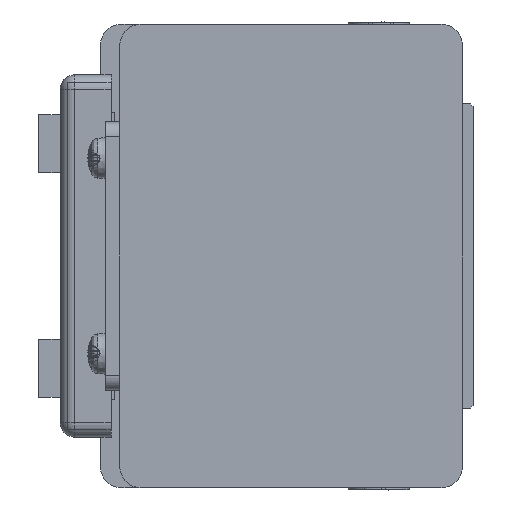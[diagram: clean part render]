
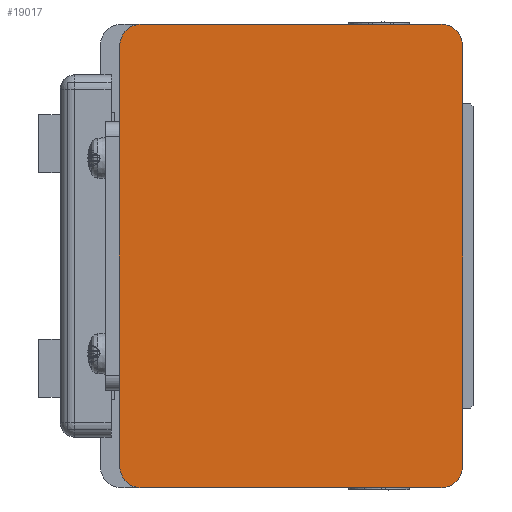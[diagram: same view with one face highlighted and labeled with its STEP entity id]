
A CAD part, left-side view. The second image highlights one B-rep face of the part: STEP entity #19017.
In plain terms, the highlighted planar face has unit normal (-1, 0, 0) as drawn and (0, 0, -1) by its records, which use the part's own axes.
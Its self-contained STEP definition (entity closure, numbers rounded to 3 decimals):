
#779=LINE('',#26883,#2431);
#794=LINE('',#26925,#2446);
#839=LINE('',#27034,#2491);
#861=LINE('',#27103,#2513);
#874=LINE('',#27138,#2526);
#875=LINE('',#27141,#2527);
#876=LINE('',#27142,#2528);
#877=LINE('',#27147,#2529);
#2431=VECTOR('',#21973,19.);
#2446=VECTOR('',#22006,41.3);
#2491=VECTOR('',#22095,41.3);
#2513=VECTOR('',#22155,19.);
#2526=VECTOR('',#22190,0.1);
#2527=VECTOR('',#22193,20.);
#2528=VECTOR('',#22194,0.1);
#2529=VECTOR('',#22199,58.);
#4238=PLANE('',#20263);
#5066=FACE_OUTER_BOUND('',#6188,.T.);
#6188=EDGE_LOOP('',(#12794,#12795,#12796,#12797,#12798,#12799,#12800,#12801,
#12802,#12803,#12804,#12805));
#7442=CIRCLE('',#20264,3.);
#7443=CIRCLE('',#20265,3.);
#7444=CIRCLE('',#20266,3.);
#7445=CIRCLE('',#20267,3.);
#7999=VERTEX_POINT('',#26880);
#8000=VERTEX_POINT('',#26882);
#8017=VERTEX_POINT('',#26922);
#8018=VERTEX_POINT('',#26924);
#8059=VERTEX_POINT('',#27031);
#8060=VERTEX_POINT('',#27033);
#8087=VERTEX_POINT('',#27100);
#8088=VERTEX_POINT('',#27102);
#8099=VERTEX_POINT('',#27136);
#8100=VERTEX_POINT('',#27140);
#8101=VERTEX_POINT('',#27144);
#8102=VERTEX_POINT('',#27146);
#9860=EDGE_CURVE('',#8000,#7999,#779,.T.);
#9881=EDGE_CURVE('',#8018,#8017,#794,.T.);
#9936=EDGE_CURVE('',#8060,#8059,#839,.T.);
#9970=EDGE_CURVE('',#8088,#8087,#861,.T.);
#9989=EDGE_CURVE('',#8099,#7999,#874,.T.);
#9990=EDGE_CURVE('',#8100,#8099,#875,.T.);
#9991=EDGE_CURVE('',#8088,#8100,#876,.T.);
#9992=EDGE_CURVE('',#8087,#8060,#7442,.T.);
#9993=EDGE_CURVE('',#8059,#8101,#7443,.T.);
#9994=EDGE_CURVE('',#8101,#8102,#877,.T.);
#9995=EDGE_CURVE('',#8102,#8018,#7444,.T.);
#9996=EDGE_CURVE('',#8017,#8000,#7445,.T.);
#12794=ORIENTED_EDGE('',*,*,#9860,.T.);
#12795=ORIENTED_EDGE('',*,*,#9989,.F.);
#12796=ORIENTED_EDGE('',*,*,#9990,.F.);
#12797=ORIENTED_EDGE('',*,*,#9991,.F.);
#12798=ORIENTED_EDGE('',*,*,#9970,.T.);
#12799=ORIENTED_EDGE('',*,*,#9992,.T.);
#12800=ORIENTED_EDGE('',*,*,#9936,.T.);
#12801=ORIENTED_EDGE('',*,*,#9993,.T.);
#12802=ORIENTED_EDGE('',*,*,#9994,.T.);
#12803=ORIENTED_EDGE('',*,*,#9995,.T.);
#12804=ORIENTED_EDGE('',*,*,#9881,.T.);
#12805=ORIENTED_EDGE('',*,*,#9996,.T.);
#19017=ADVANCED_FACE('',(#5066),#4238,.F.);
#20263=AXIS2_PLACEMENT_3D('',#27139,#22191,#22192);
#20264=AXIS2_PLACEMENT_3D('',#27143,#22195,#22196);
#20265=AXIS2_PLACEMENT_3D('',#27145,#22197,#22198);
#20266=AXIS2_PLACEMENT_3D('',#27148,#22200,#22201);
#20267=AXIS2_PLACEMENT_3D('',#27149,#22202,#22203);
#21973=DIRECTION('',(1.,0.,0.));
#22006=DIRECTION('',(0.,1.,0.));
#22095=DIRECTION('',(0.,-1.,0.));
#22155=DIRECTION('',(1.,0.,0.));
#22190=DIRECTION('',(0.,-1.,0.));
#22191=DIRECTION('center_axis',(0.,0.,1.));
#22192=DIRECTION('ref_axis',(1.,0.,0.));
#22193=DIRECTION('',(-1.,0.,0.));
#22194=DIRECTION('',(0.,1.,0.));
#22195=DIRECTION('center_axis',(0.,0.,-1.));
#22196=DIRECTION('ref_axis',(-1.,0.,0.));
#22197=DIRECTION('center_axis',(0.,0.,-1.));
#22198=DIRECTION('ref_axis',(0.,1.,0.));
#22199=DIRECTION('',(-1.,0.,0.));
#22200=DIRECTION('center_axis',(0.,0.,-1.));
#22201=DIRECTION('ref_axis',(1.,0.,0.));
#22202=DIRECTION('center_axis',(0.,0.,-1.));
#22203=DIRECTION('ref_axis',(0.,-1.,0.));
#26880=CARTESIAN_POINT('',(22.,48.8,-692.));
#26882=CARTESIAN_POINT('',(3.,48.8,-692.));
#26883=CARTESIAN_POINT('',(3.,48.8,-692.));
#26922=CARTESIAN_POINT('',(0.,45.8,-692.));
#26924=CARTESIAN_POINT('',(0.,4.5,-692.));
#26925=CARTESIAN_POINT('',(0.,4.5,-692.));
#27031=CARTESIAN_POINT('',(64.,4.5,-692.));
#27033=CARTESIAN_POINT('',(64.,45.8,-692.));
#27034=CARTESIAN_POINT('',(64.,45.8,-692.));
#27100=CARTESIAN_POINT('',(61.,48.8,-692.));
#27102=CARTESIAN_POINT('',(42.,48.8,-692.));
#27103=CARTESIAN_POINT('',(42.,48.8,-692.));
#27136=CARTESIAN_POINT('',(22.,48.9,-692.));
#27138=CARTESIAN_POINT('',(22.,48.9,-692.));
#27139=CARTESIAN_POINT('Origin',(32.,25.15,-692.));
#27140=CARTESIAN_POINT('',(42.,48.9,-692.));
#27141=CARTESIAN_POINT('',(42.,48.9,-692.));
#27142=CARTESIAN_POINT('',(42.,48.8,-692.));
#27143=CARTESIAN_POINT('Origin',(61.,45.8,-692.));
#27144=CARTESIAN_POINT('',(61.,1.5,-692.));
#27145=CARTESIAN_POINT('Origin',(61.,4.5,-692.));
#27146=CARTESIAN_POINT('',(3.,1.5,-692.));
#27147=CARTESIAN_POINT('',(61.,1.5,-692.));
#27148=CARTESIAN_POINT('Origin',(3.,4.5,-692.));
#27149=CARTESIAN_POINT('Origin',(3.,45.8,-692.));
